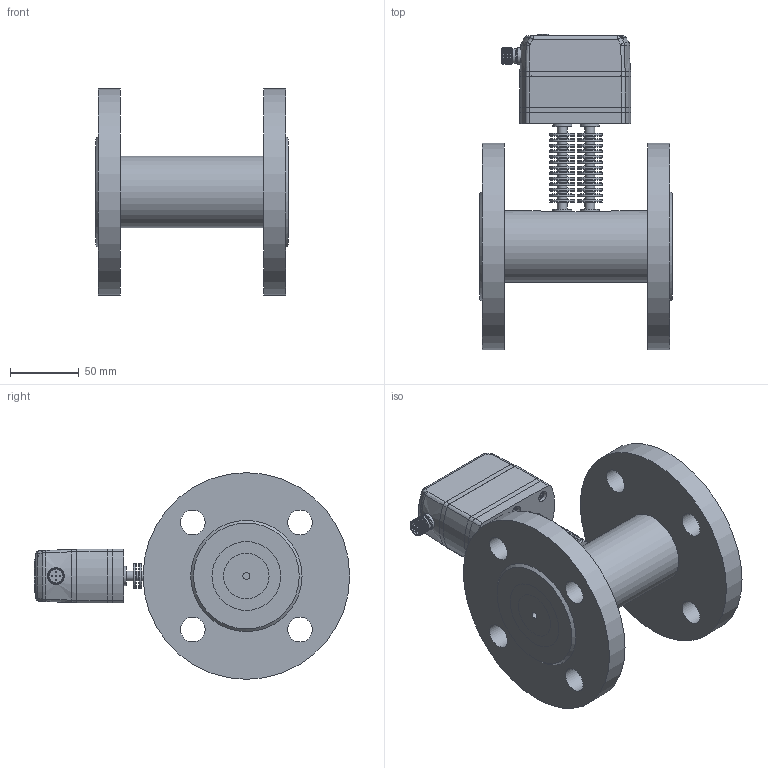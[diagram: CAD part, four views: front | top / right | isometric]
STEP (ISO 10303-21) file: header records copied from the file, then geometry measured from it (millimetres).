
FILE_DESCRIPTION( (''), '2;1');
FILE_NAME( 'QEKH_DN40_flange_cooling-fins_1.step', '2025-04-29T11:17:36+08:00', (''), (''), '', '', '');
FILE_SCHEMA (('AUTOMOTIVE_DESIGN { 1 0 10303 214 3 1 1 1 }'));
Length unit declared in the file: millimetre
Products named in the file (1): QEKH DN40_flange_cooling-fins_1
Bounding box: 140 x 228.9 x 150 mm (x, y, z)
Volume: 1024556.8 mm3; surface area: 207332.3 mm2
Topology: 28 solids, 31 shells, 1700 faces, 4059 edges, 2588 vertices
Faces by surface type: plane 798, cylinder 350, extrusion 239, cone 204, torus 52, bspline 48, sphere 9
Full cylindrical faces by diameter (mm): 1 x10, 2.05 x4, 2.6 x4, 2.7 x5, 2.874 x4, 3 x6, 3.1 x1, 3.3 x8, 3.5 x7, 3.838 x6, 4.2 x2, 4.5 x12, 5 x3, 5.5 x10, 7 x34, 8 x4, 9 x2, 9.8 x2, 10.8 x1, 11 x4, 11.5 x2, 11.992 x2, 12 x8, 14 x6, 14.5 x2, 17 x2, 18 x34, 19.1 x6, 25 x1, 33 x2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
Entity records: 54046 total; most frequent: CARTESIAN_POINT 16807, ORIENTED_EDGE 7220, DIRECTION 6973, EDGE_CURVE 3610, VERTEX_POINT 2502, AXIS2_PLACEMENT_3D 2449, EDGE_LOOP 2292, VECTOR 2075
